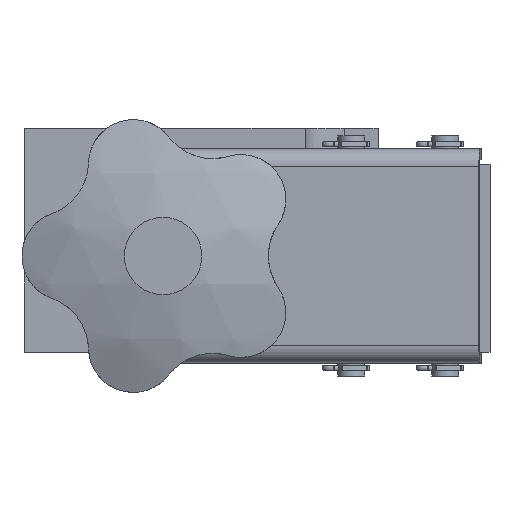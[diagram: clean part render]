
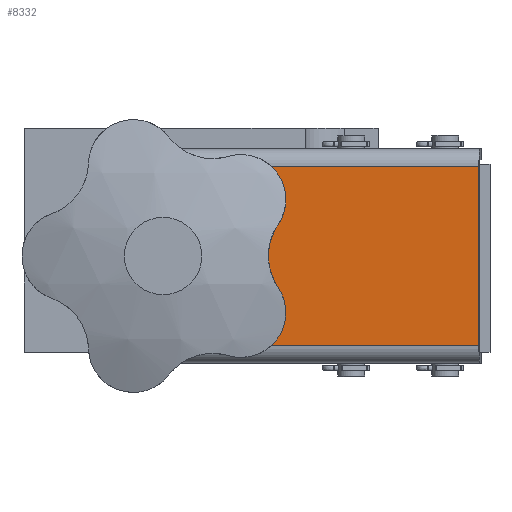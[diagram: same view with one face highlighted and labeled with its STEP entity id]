
A CAD part, left-side view. The second image highlights one B-rep face of the part: STEP entity #8332.
In plain terms, the highlighted planar face has unit normal (-0.999, 0.036, 0).
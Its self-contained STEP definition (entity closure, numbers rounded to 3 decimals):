
#643=FACE_OUTER_BOUND('',#1095,.T.);
#1095=EDGE_LOOP('',(#5808,#5809,#5810,#5811,#5812,#5813,#5814,#5815));
#1576=CIRCLE('',#8899,8.);
#2122=LINE('',#12302,#2681);
#2123=LINE('',#12308,#2682);
#2150=LINE('',#12382,#2709);
#2167=LINE('',#12425,#2726);
#2170=LINE('',#12430,#2729);
#2171=LINE('',#12433,#2730);
#2172=LINE('',#12436,#2731);
#2681=VECTOR('',#9996,10.);
#2682=VECTOR('',#10001,10.);
#2709=VECTOR('',#10066,10.);
#2726=VECTOR('',#10125,10.);
#2729=VECTOR('',#10130,10.);
#2730=VECTOR('',#10133,10.);
#2731=VECTOR('',#10136,10.);
#3276=VERTEX_POINT('',#12298);
#3277=VERTEX_POINT('',#12300);
#3279=VERTEX_POINT('',#12305);
#3280=VERTEX_POINT('',#12307);
#3313=VERTEX_POINT('',#12423);
#3314=VERTEX_POINT('',#12428);
#3315=VERTEX_POINT('',#12432);
#3316=VERTEX_POINT('',#12434);
#4213=EDGE_CURVE('',#3277,#3276,#2122,.T.);
#4215=EDGE_CURVE('',#3280,#3279,#2123,.T.);
#4254=EDGE_CURVE('',#3277,#3280,#2150,.T.);
#4276=EDGE_CURVE('',#3279,#3313,#2167,.T.);
#4279=EDGE_CURVE('',#3314,#3276,#2170,.T.);
#4280=EDGE_CURVE('',#3313,#3315,#2171,.T.);
#4281=EDGE_CURVE('',#3315,#3316,#1576,.T.);
#4282=EDGE_CURVE('',#3316,#3314,#2172,.T.);
#5808=ORIENTED_EDGE('',*,*,#4280,.T.);
#5809=ORIENTED_EDGE('',*,*,#4281,.T.);
#5810=ORIENTED_EDGE('',*,*,#4282,.T.);
#5811=ORIENTED_EDGE('',*,*,#4279,.T.);
#5812=ORIENTED_EDGE('',*,*,#4213,.F.);
#5813=ORIENTED_EDGE('',*,*,#4254,.T.);
#5814=ORIENTED_EDGE('',*,*,#4215,.T.);
#5815=ORIENTED_EDGE('',*,*,#4276,.T.);
#7968=PLANE('',#8898);
#8332=ADVANCED_FACE('',(#643),#7968,.T.);
#8898=AXIS2_PLACEMENT_3D('',#12431,#10131,#10132);
#8899=AXIS2_PLACEMENT_3D('',#12435,#10134,#10135);
#9996=DIRECTION('',(0.036,0.999,0.));
#10001=DIRECTION('',(0.036,0.999,0.));
#10066=DIRECTION('',(0.,0.,1.));
#10125=DIRECTION('',(0.,0.,-1.));
#10130=DIRECTION('',(0.,0.,-1.));
#10131=DIRECTION('center_axis',(-0.999,0.036,0.));
#10132=DIRECTION('ref_axis',(-0.036,-0.999,0.));
#10133=DIRECTION('',(-0.036,-0.999,0.));
#10134=DIRECTION('center_axis',(0.999,-0.036,0.));
#10135=DIRECTION('ref_axis',(0.,0.,
-1.));
#10136=DIRECTION('',(0.036,0.999,0.));
#12298=CARTESIAN_POINT('',(-31.242,55.433,-23.5));
#12300=CARTESIAN_POINT('',(-34.027,-22.517,-23.5));
#12302=CARTESIAN_POINT('',(-34.027,-22.517,-23.5));
#12305=CARTESIAN_POINT('',(-31.242,55.433,16.5));
#12307=CARTESIAN_POINT('',(-34.027,-22.517,16.5));
#12308=CARTESIAN_POINT('',(-34.027,-22.517,16.5));
#12382=CARTESIAN_POINT('',(-34.027,-22.517,-23.5));
#12423=CARTESIAN_POINT('',(-31.242,55.433,4.5));
#12425=CARTESIAN_POINT('',(-31.242,55.433,-23.5));
#12428=CARTESIAN_POINT('',(-31.242,55.433,-11.5));
#12430=CARTESIAN_POINT('',(-31.242,55.433,-23.5));
#12431=CARTESIAN_POINT('Origin',(-34.027,-22.517,16.5));
#12432=CARTESIAN_POINT('',(-31.527,47.438,4.5));
#12433=CARTESIAN_POINT('',(-32.777,12.46,4.5));
#12434=CARTESIAN_POINT('',(-31.527,47.438,-11.5));
#12435=CARTESIAN_POINT('Origin',(-31.527,47.438,-3.5));
#12436=CARTESIAN_POINT('',(-32.42,22.454,-11.5));
